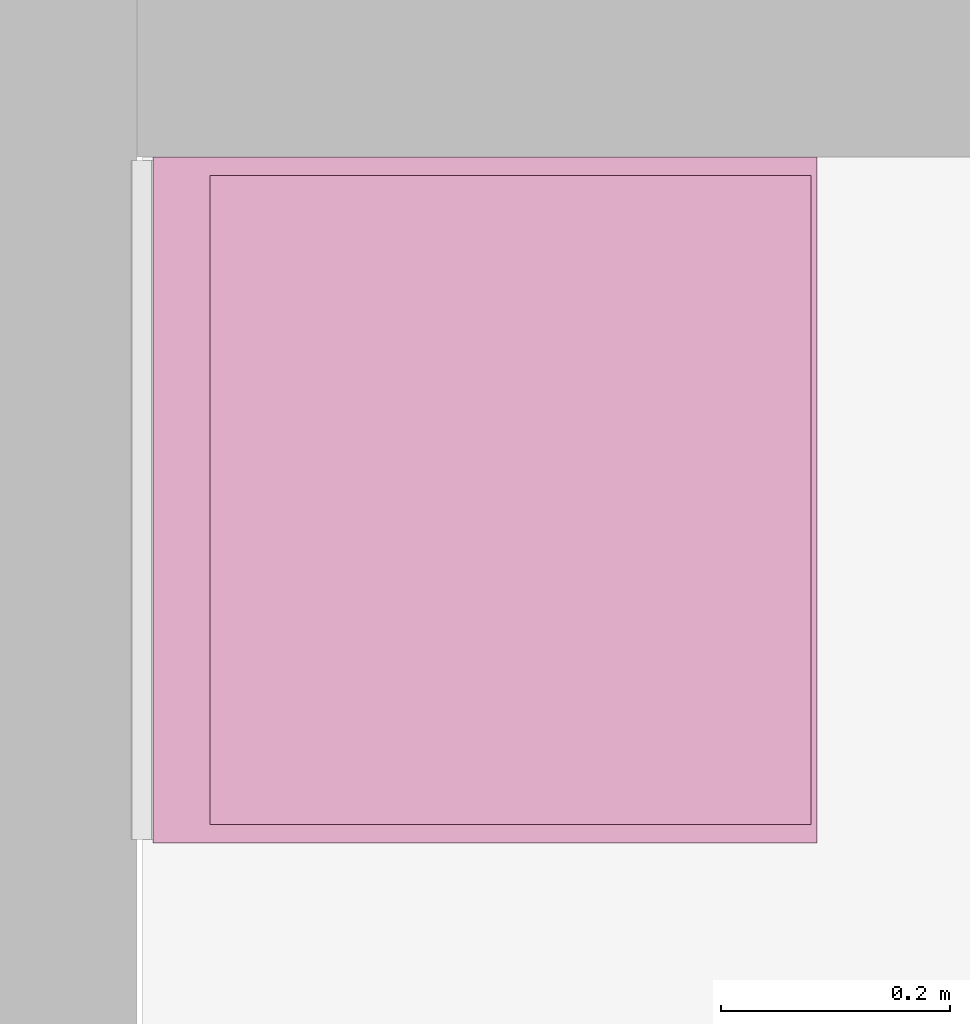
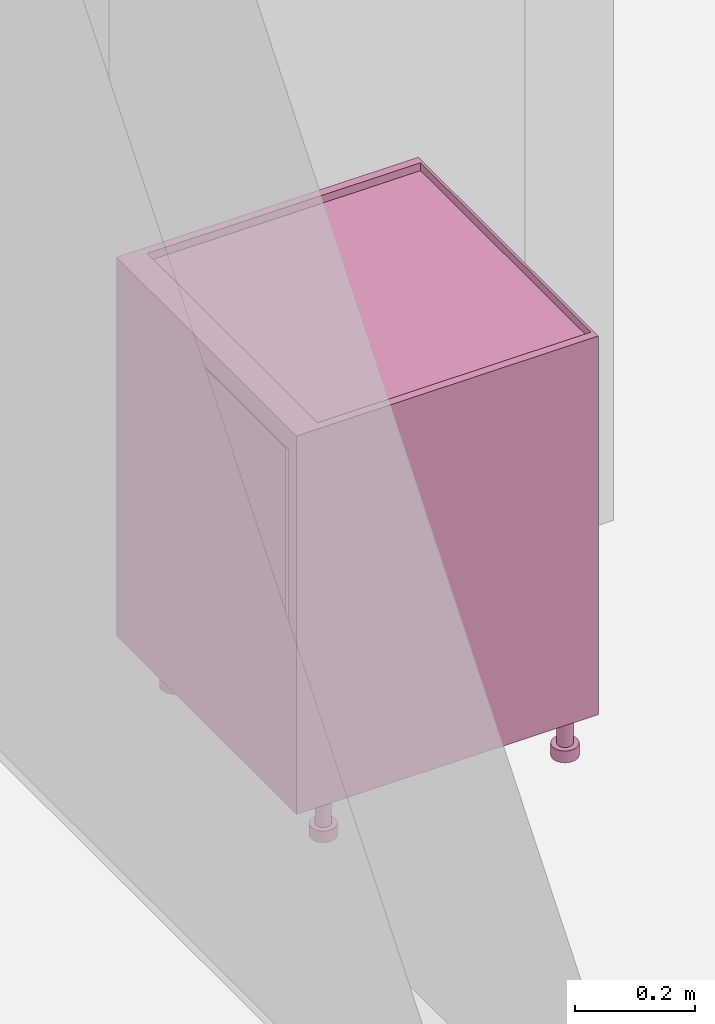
# One storey, part 19 of 42: 1 furnishing.
"""IFC2X3 building model written with IfcOpenShell, lengths in millimetres."""

from ifc_helpers import new_model, entity, si_unit, converted_unit, direction, frame, origin, place, context, subcontext, project, spatial, faceted_brep, source, transform, mapped, material, type_object, type_shapes, element, save


model = new_model("IFC2X3")

# Units and contexts
model_context = context("Model", 3, precision=0.01, world=origin(), true_north=direction((6.123233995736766e-17, 1.0)))
plan_context = context("Plan", 3, precision=0.01, world=origin(), true_north=direction((6.123233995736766e-17, 1.0)))
body_context = subcontext(model_context, "Body", "Model", "MODEL_VIEW")
ifc_project = project(units=[si_unit("LENGTHUNIT", "METRE", prefix="MILLI"), converted_unit("PLANEANGLEUNIT", "DEGREE", entity("IfcPlaneAngleMeasure", 0.017453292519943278), si_unit("PLANEANGLEUNIT", "RADIAN"), dimensions=[0, 0, 0, 0, 0, 0, 0]), si_unit("AREAUNIT", "SQUARE_METRE")], contexts=[model_context, plan_context])

# Site, building, storey
site_placement = place(None, origin())
site = spatial("IfcSite", under=ifc_project, at=site_placement, Name="Default", CompositionType="ELEMENT")
building_placement = place(site_placement, origin())
building = spatial("IfcBuilding", under=site, at=building_placement, CompositionType="ELEMENT")
storey_placement = place(building_placement, frame((0.0, 0.0, 9465.000076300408)))
storey = spatial("IfcBuildingStorey", under=building, at=storey_placement, Name="4K", CompositionType="ELEMENT", Elevation=9465.000076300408)

# Furnishing
ifc_material = material(Name="<Unnamed>")
furniture_type = type_object("IfcFurnitureType", Name="HR_Casework_Kitchen_Generic_Appliance_v1:Fridge", AssemblyPlace="NOTDEFINED", material=ifc_material)
shared_shape = source(origin(), body_context, "Body", "Brep", [
    faceted_brep([(305.7003264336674, -585.7846096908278, -3101.0), (310.6708891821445, -581.9705627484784, -3101.0), (300.70032643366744, -577.1243556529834, -3101.0), (297.32379306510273, -578.5229615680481, -3101.0), (299.91198351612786, -588.1822198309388, -3101.0), (303.59982137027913, -574.8994949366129, -3101.0), (314.4849361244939, -577.0, -3101.0), (305.82468208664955, -572.0, -3101.0), (307.2232880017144, -568.6234666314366, -3101.0), (316.8825462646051, -571.2116570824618, -3101.0), (307.70032643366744, -565.0, -3101.0), (317.7003264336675, -565.0, -3101.0), (307.2232880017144, -561.3765333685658, -3101.0), (316.88254626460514, -558.7883429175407, -3101.0), (305.82468208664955, -558.0, -3101.0), (314.484936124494, -553.0, -3101.0), (303.59982137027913, -555.1005050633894, -3101.0), (310.67088918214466, -548.0294372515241, -3101.0), (300.70032643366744, -552.875644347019, -3101.0), (305.7003264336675, -544.2153903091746, -3101.0), (297.32379306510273, -551.4770384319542, -3101.0), (299.91198351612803, -541.8177801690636, -3101.0), (293.7003264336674, -551.0, -3101.0), (293.70032643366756, -541.0, -3101.0), (290.07685980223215, -551.4770384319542, -3101.0), (287.488669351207, -541.8177801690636, -3101.0), (286.70032643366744, -552.875644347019, -3101.0), (281.7003264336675, -544.2153903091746, -3101.0), (283.80083149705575, -555.1005050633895, -3101.0), (276.7297636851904, -548.029437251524, -3101.0), (281.5759707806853, -558.0, -3101.0), (272.91571674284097, -553.0, -3101.0), (270.51810660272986, -558.7883429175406, -3101.0), (280.1773648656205, -561.3765333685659, -3101.0), (269.7003264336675, -565.0, -3101.0), (279.7003264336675, -565.0, -3101.0), (270.51810660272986, -571.2116570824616, -3101.0), (280.1773648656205, -568.6234666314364, -3101.0), (272.9157167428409, -577.0, -3101.0), (281.57597078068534, -572.0, -3101.0), (276.7297636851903, -581.9705627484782, -3101.0), (283.80083149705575, -574.8994949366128, -3101.0), (281.70032643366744, -585.7846096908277, -3101.0), (286.70032643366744, -577.1243556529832, -3101.0), (287.4886693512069, -588.1822198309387, -3101.0), (290.07685980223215, -578.5229615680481, -3101.0), (293.7003264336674, -589.0, -3101.0), (293.70032643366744, -579.0, -3101.0), (299.91198351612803, -541.8177801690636, -3125.0), (305.7003264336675, -544.2153903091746, -3125.0), (310.67088918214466, -548.0294372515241, -3125.0), (314.484936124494, -553.0, -3125.0), (316.88254626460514, -558.7883429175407, -3125.0), (317.7003264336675, -565.0, -3125.0), (316.8825462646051, -571.2116570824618, -3125.0), (314.4849361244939, -577.0, -3125.0), (310.6708891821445, -581.9705627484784, -3125.0), (305.7003264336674, -585.7846096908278, -3125.0), (299.91198351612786, -588.1822198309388, -3125.0), (293.7003264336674, -589.0, -3125.0), (287.4886693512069, -588.1822198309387, -3125.0), (281.70032643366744, -585.7846096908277, -3125.0), (276.7297636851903, -581.9705627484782, -3125.0), (272.9157167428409, -577.0, -3125.0), (270.51810660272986, -571.2116570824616, -3125.0), (269.7003264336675, -565.0, -3125.0), (270.51810660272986, -558.7883429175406, -3125.0), (272.91571674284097, -553.0, -3125.0), (276.7297636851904, -548.029437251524, -3125.0), (281.7003264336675, -544.2153903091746, -3125.0), (287.488669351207, -541.8177801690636, -3125.0), (293.70032643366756, -541.0, -3125.0), (297.32379306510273, -578.5229615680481, -3025.0), (300.70032643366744, -577.1243556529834, -3025.0), (303.59982137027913, -574.8994949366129, -3025.0), (305.8246820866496, -572.0, -3025.0), (307.2232880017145, -568.6234666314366, -3025.0), (307.70032643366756, -565.0, -3025.0), (307.2232880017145, -561.3765333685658, -3025.0), (305.8246820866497, -558.0, -3025.0), (303.5998213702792, -555.1005050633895, -3025.0), (300.70032643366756, -552.875644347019, -3025.0), (297.32379306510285, -551.4770384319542, -3025.0), (293.70032643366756, -551.0, -3025.0), (290.07685980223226, -551.4770384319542, -3025.0), (286.70032643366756, -552.875644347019, -3025.0), (283.80083149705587, -555.1005050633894, -3025.0), (281.5759707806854, -558.0, -3025.0), (280.1773648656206, -561.3765333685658, -3025.0), (279.70032643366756, -565.0, -3025.0), (280.1773648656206, -568.6234666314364, -3025.0), (281.5759707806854, -572.0, -3025.0), (283.8008314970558, -574.8994949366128, -3025.0), (286.7003264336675, -577.1243556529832, -3025.0), (290.07685980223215, -578.5229615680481, -3025.0), (293.70032643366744, -579.0, -3025.0)], [[[0, 1, 2]], [[0, 2, 3]], [[3, 4, 0]], [[2, 1, 5]], [[6, 5, 1]], [[7, 5, 6]], [[8, 7, 6]], [[8, 6, 9]], [[8, 9, 10]], [[10, 9, 11]], [[12, 10, 11]], [[12, 11, 13]], [[14, 12, 13]], [[14, 13, 15]], [[16, 14, 15]], [[15, 17, 16]], [[17, 18, 16]], [[18, 17, 19]], [[18, 19, 20]], [[21, 20, 19]], [[20, 21, 22]], [[22, 21, 23]], [[23, 24, 22]], [[24, 23, 25]], [[24, 25, 26]], [[27, 26, 25]], [[27, 28, 26]], [[27, 29, 28]], [[30, 28, 29]], [[31, 30, 29]], [[32, 30, 31]], [[33, 30, 32]], [[33, 32, 34]], [[34, 35, 33]], [[36, 35, 34]], [[36, 37, 35]], [[37, 36, 38]], [[39, 37, 38]], [[39, 38, 40]], [[39, 40, 41]], [[40, 42, 41]], [[41, 42, 43]], [[43, 42, 44]], [[44, 45, 43]], [[46, 45, 44]], [[4, 47, 46]], [[45, 46, 47]], [[4, 3, 47]], [[48, 49, 50, 51, 52, 53, 54, 55, 56, 57, 58, 59, 60, 61, 62, 63, 64, 65, 66, 67, 68, 69, 70, 71]], [[64, 36, 34, 65]], [[63, 38, 36, 64]], [[42, 40, 62, 61]], [[63, 62, 40, 38]], [[44, 42, 61, 60]], [[46, 44, 60, 59]], [[58, 4, 46, 59]], [[57, 0, 4, 58]], [[54, 53, 11, 9]], [[1, 0, 57, 56]], [[6, 55, 54, 9]], [[6, 1, 56, 55]], [[52, 13, 11, 53]], [[51, 15, 13, 52]], [[19, 17, 50, 49]], [[51, 50, 17, 15]], [[21, 19, 49, 48]], [[23, 21, 48, 71]], [[27, 69, 68, 29]], [[31, 67, 66, 32]], [[68, 67, 31, 29]], [[32, 66, 65, 34]], [[25, 70, 69, 27]], [[70, 25, 23, 71]], [[72, 73, 74, 75, 76, 77, 78, 79, 80, 81, 82, 83, 84, 85, 86, 87, 88, 89, 90, 91, 92, 93, 94, 95]], [[37, 39, 91, 90]], [[35, 37, 90, 89]], [[43, 45, 94, 93]], [[41, 43, 93, 92]], [[39, 41, 92, 91]], [[47, 95, 94, 45]], [[2, 5, 74, 73]], [[3, 2, 73, 72]], [[8, 10, 77, 76]], [[7, 8, 76, 75]], [[5, 7, 75, 74]], [[3, 72, 95, 47]], [[79, 78, 12, 14]], [[78, 77, 10, 12]], [[80, 16, 18, 81]], [[16, 80, 79, 14]], [[81, 18, 20, 82]], [[22, 83, 82, 20]], [[26, 28, 86, 85]], [[24, 26, 85, 84]], [[33, 35, 89, 88]], [[30, 33, 88, 87]], [[28, 30, 87, 86]], [[24, 84, 83, 22]]]),
    faceted_brep([(-192.29967356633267, -585.7846096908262, -3101.0), (-187.3291108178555, -581.9705627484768, -3101.0), (-197.29967356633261, -577.1243556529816, -3101.0), (-200.67620693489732, -578.5229615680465, -3101.0), (-198.08801648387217, -588.1822198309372, -3101.0), (-194.40017862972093, -574.8994949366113, -3101.0), (-183.51506387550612, -577.0, -3101.0), (-192.17531791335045, -572.0, -3101.0), (-190.77671199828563, -568.6234666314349, -3101.0), (-181.11745373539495, -571.2116570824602, -3101.0), (-190.29967356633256, -565.0, -3101.0), (-180.29967356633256, -565.0, -3101.0), (-190.77671199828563, -561.3765333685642, -3101.0), (-181.11745373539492, -558.788342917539, -3101.0), (-192.17531791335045, -558.0, -3101.0), (-183.515063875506, -553.0, -3101.0), (-194.40017862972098, -555.1005050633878, -3101.0), (-187.3291108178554, -548.0294372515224, -3101.0), (-197.29967356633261, -552.8756443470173, -3101.0), (-192.29967356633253, -544.215390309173, -3101.0), (-200.67620693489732, -551.4770384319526, -3101.0), (-198.08801648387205, -541.8177801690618, -3101.0), (-204.29967356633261, -551.0, -3101.0), (-204.29967356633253, -541.0, -3101.0), (-207.92314019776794, -551.4770384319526, -3101.0), (-210.51133064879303, -541.8177801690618, -3101.0), (-211.29967356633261, -552.8756443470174, -3101.0), (-216.29967356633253, -544.215390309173, -3101.0), (-214.19916850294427, -555.1005050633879, -3101.0), (-221.27023631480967, -548.0294372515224, -3101.0), (-216.42402921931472, -558.0, -3101.0), (-225.08428325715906, -553.0, -3101.0), (-227.48189339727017, -558.788342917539, -3101.0), (-217.8226351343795, -561.3765333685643, -3101.0), (-228.2996735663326, -565.0, -3101.0), (-218.29967356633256, -565.0, -3101.0), (-227.48189339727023, -571.21165708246, -3101.0), (-217.8226351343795, -568.6234666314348, -3101.0), (-225.08428325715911, -577.0, -3101.0), (-216.42402921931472, -572.0, -3101.0), (-221.27023631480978, -581.9705627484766, -3101.0), (-214.19916850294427, -574.8994949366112, -3101.0), (-216.29967356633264, -585.784609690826, -3101.0), (-211.29967356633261, -577.1243556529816, -3101.0), (-210.51133064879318, -588.1822198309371, -3101.0), (-207.9231401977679, -578.5229615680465, -3101.0), (-204.2996735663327, -589.0, -3101.0), (-204.29967356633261, -579.0, -3101.0), (-198.08801648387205, -541.8177801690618, -3125.0), (-192.29967356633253, -544.215390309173, -3125.0), (-187.3291108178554, -548.0294372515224, -3125.0), (-183.515063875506, -553.0, -3125.0), (-181.11745373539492, -558.788342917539, -3125.0), (-180.29967356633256, -565.0, -3125.0), (-181.11745373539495, -571.2116570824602, -3125.0), (-183.51506387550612, -577.0, -3125.0), (-187.3291108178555, -581.9705627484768, -3125.0), (-192.29967356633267, -585.7846096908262, -3125.0), (-198.08801648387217, -588.1822198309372, -3125.0), (-204.2996735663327, -589.0, -3125.0), (-210.51133064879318, -588.1822198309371, -3125.0), (-216.29967356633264, -585.784609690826, -3125.0), (-221.27023631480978, -581.9705627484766, -3125.0), (-225.08428325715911, -577.0, -3125.0), (-227.48189339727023, -571.21165708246, -3125.0), (-228.2996735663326, -565.0, -3125.0), (-227.48189339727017, -558.788342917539, -3125.0), (-225.08428325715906, -553.0, -3125.0), (-221.27023631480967, -548.0294372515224, -3125.0), (-216.29967356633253, -544.215390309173, -3125.0), (-210.51133064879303, -541.8177801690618, -3125.0), (-204.29967356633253, -541.0, -3125.0), (-200.67620693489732, -578.5229615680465, -3025.0), (-197.29967356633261, -577.1243556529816, -3025.0), (-194.40017862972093, -574.8994949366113, -3025.0), (-192.17531791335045, -572.0, -3025.0), (-190.77671199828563, -568.6234666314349, -3025.0), (-190.29967356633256, -565.0, -3025.0), (-190.77671199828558, -561.3765333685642, -3025.0), (-192.1753179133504, -558.0, -3025.0), (-194.40017862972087, -555.1005050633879, -3025.0), (-197.29967356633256, -552.8756443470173, -3025.0), (-200.67620693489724, -551.4770384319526, -3025.0), (-204.29967356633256, -551.0, -3025.0), (-207.92314019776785, -551.4770384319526, -3025.0), (-211.29967356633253, -552.8756443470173, -3025.0), (-214.1991685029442, -555.1005050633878, -3025.0), (-216.4240292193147, -558.0, -3025.0), (-217.8226351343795, -561.3765333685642, -3025.0), (-218.29967356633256, -565.0, -3025.0), (-217.8226351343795, -568.6234666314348, -3025.0), (-216.42402921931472, -572.0, -3025.0), (-214.19916850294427, -574.8994949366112, -3025.0), (-211.2996735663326, -577.1243556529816, -3025.0), (-207.9231401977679, -578.5229615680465, -3025.0), (-204.29967356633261, -579.0, -3025.0)], [[[0, 1, 2]], [[0, 2, 3]], [[3, 4, 0]], [[2, 1, 5]], [[6, 5, 1]], [[7, 5, 6]], [[8, 7, 6]], [[8, 6, 9]], [[8, 9, 10]], [[10, 9, 11]], [[12, 10, 11]], [[12, 11, 13]], [[14, 12, 13]], [[14, 13, 15]], [[16, 14, 15]], [[15, 17, 16]], [[17, 18, 16]], [[18, 17, 19]], [[18, 19, 20]], [[21, 20, 19]], [[20, 21, 22]], [[22, 21, 23]], [[23, 24, 22]], [[24, 23, 25]], [[24, 25, 26]], [[27, 26, 25]], [[27, 28, 26]], [[27, 29, 28]], [[30, 28, 29]], [[31, 30, 29]], [[32, 30, 31]], [[33, 30, 32]], [[33, 32, 34]], [[34, 35, 33]], [[36, 35, 34]], [[36, 37, 35]], [[37, 36, 38]], [[39, 37, 38]], [[39, 38, 40]], [[39, 40, 41]], [[40, 42, 41]], [[41, 42, 43]], [[43, 42, 44]], [[44, 45, 43]], [[46, 45, 44]], [[4, 47, 46]], [[45, 46, 47]], [[4, 3, 47]], [[48, 49, 50, 51, 52, 53, 54, 55, 56, 57, 58, 59, 60, 61, 62, 63, 64, 65, 66, 67, 68, 69, 70, 71]], [[64, 36, 34, 65]], [[63, 38, 36, 64]], [[42, 40, 62, 61]], [[63, 62, 40, 38]], [[44, 42, 61, 60]], [[46, 44, 60, 59]], [[58, 4, 46, 59]], [[57, 0, 4, 58]], [[54, 53, 11, 9]], [[1, 0, 57, 56]], [[6, 55, 54, 9]], [[6, 1, 56, 55]], [[52, 13, 11, 53]], [[51, 15, 13, 52]], [[19, 17, 50, 49]], [[51, 50, 17, 15]], [[21, 19, 49, 48]], [[23, 21, 48, 71]], [[27, 69, 68, 29]], [[31, 67, 66, 32]], [[68, 67, 31, 29]], [[32, 66, 65, 34]], [[25, 70, 69, 27]], [[70, 25, 23, 71]], [[72, 73, 74, 75, 76, 77, 78, 79, 80, 81, 82, 83, 84, 85, 86, 87, 88, 89, 90, 91, 92, 93, 94, 95]], [[37, 39, 91, 90]], [[35, 37, 90, 89]], [[43, 45, 94, 93]], [[41, 43, 93, 92]], [[39, 41, 92, 91]], [[47, 95, 94, 45]], [[2, 5, 74, 73]], [[3, 2, 73, 72]], [[8, 10, 77, 76]], [[7, 8, 76, 75]], [[5, 7, 75, 74]], [[3, 72, 95, 47]], [[79, 78, 12, 14]], [[78, 77, 10, 12]], [[80, 16, 18, 81]], [[16, 80, 79, 14]], [[81, 18, 20, 82]], [[22, 83, 82, 20]], [[26, 28, 86, 85]], [[24, 26, 85, 84]], [[33, 35, 89, 88]], [[30, 33, 88, 87]], [[28, 30, 87, 86]], [[24, 84, 83, 22]]]),
    faceted_brep([(305.70032643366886, -120.78460969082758, -3101.0), (310.670889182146, -116.97056274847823, -3101.0), (300.7003264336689, -112.12435565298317, -3101.0), (297.3237930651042, -113.52296156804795, -3101.0), (299.91198351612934, -123.18221983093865, -3101.0), (303.5998213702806, -109.8994949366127, -3101.0), (314.48493612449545, -112.0, -3101.0), (305.824682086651, -107.0, -3101.0), (307.2232880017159, -103.62346663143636, -3101.0), (316.88254626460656, -106.21165708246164, -3101.0), (307.700326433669, -100.0, -3101.0), (317.700326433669, -100.0, -3101.0), (307.2232880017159, -96.3765333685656, -3101.0), (316.8825462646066, -93.78834291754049, -3101.0), (305.824682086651, -93.0, -3101.0), (314.4849361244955, -88.0, -3101.0), (303.5998213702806, -90.10050506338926, -3101.0), (310.67088918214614, -83.02943725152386, -3101.0), (300.7003264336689, -87.8756443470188, -3101.0), (305.700326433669, -79.21539030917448, -3101.0), (297.3237930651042, -86.477038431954, -3101.0), (299.9119835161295, -76.81778016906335, -3101.0), (293.70032643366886, -86.0, -3101.0), (293.70032643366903, -76.0, -3101.0), (290.0768598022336, -86.47703843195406, -3101.0), (287.4886693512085, -76.81778016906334, -3101.0), (286.7003264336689, -87.87564434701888, -3101.0), (281.700326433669, -79.21539030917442, -3101.0), (283.8008314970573, -90.10050506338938, -3101.0), (276.72976368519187, -83.0294372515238, -3101.0), (281.5759707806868, -93.0, -3101.0), (272.91571674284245, -88.0, -3101.0), (270.51810660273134, -93.78834291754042, -3101.0), (280.177364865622, -96.37653336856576, -3101.0), (269.700326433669, -100.0, -3101.0), (279.700326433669, -100.0, -3101.0), (270.51810660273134, -106.2116570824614, -3101.0), (280.177364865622, -103.62346663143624, -3101.0), (272.9157167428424, -112.0, -3101.0), (281.5759707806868, -107.0, -3101.0), (276.72976368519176, -116.97056274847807, -3101.0), (283.8008314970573, -109.89949493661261, -3101.0), (281.7003264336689, -120.78460969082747, -3101.0), (286.7003264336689, -112.1243556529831, -3101.0), (287.4886693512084, -123.1822198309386, -3101.0), (290.0768598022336, -113.52296156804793, -3101.0), (293.70032643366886, -124.0, -3101.0), (293.7003264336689, -114.0, -3101.0), (299.9119835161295, -76.81778016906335, -3125.0), (305.700326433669, -79.21539030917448, -3125.0), (310.67088918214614, -83.02943725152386, -3125.0), (314.4849361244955, -88.0, -3125.0), (316.8825462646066, -93.78834291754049, -3125.0), (317.700326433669, -100.0, -3125.0), (316.88254626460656, -106.21165708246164, -3125.0), (314.48493612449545, -112.0, -3125.0), (310.670889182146, -116.97056274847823, -3125.0), (305.70032643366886, -120.78460969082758, -3125.0), (299.91198351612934, -123.18221983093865, -3125.0), (293.70032643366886, -124.0, -3125.0), (287.4886693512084, -123.1822198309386, -3125.0), (281.7003264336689, -120.78460969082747, -3125.0), (276.72976368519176, -116.97056274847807, -3125.0), (272.9157167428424, -112.0, -3125.0), (270.51810660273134, -106.2116570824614, -3125.0), (269.700326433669, -100.0, -3125.0), (270.51810660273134, -93.78834291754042, -3125.0), (272.91571674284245, -88.0, -3125.0), (276.72976368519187, -83.0294372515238, -3125.0), (281.700326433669, -79.21539030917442, -3125.0), (287.4886693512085, -76.81778016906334, -3125.0), (293.70032643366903, -76.0, -3125.0), (297.32379306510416, -113.52296156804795, -3025.0), (300.70032643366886, -112.12435565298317, -3025.0), (303.59982137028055, -109.8994949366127, -3025.0), (305.824682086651, -107.0, -3025.0), (307.22328800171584, -103.62346663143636, -3025.0), (307.700326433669, -100.0, -3025.0), (307.2232880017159, -96.3765333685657, -3025.0), (305.82468208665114, -93.0, -3025.0), (303.5998213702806, -90.10050506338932, -3025.0), (300.700326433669, -87.87564434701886, -3025.0), (297.32379306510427, -86.47703843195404, -3025.0), (293.700326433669, -86.0, -3025.0), (290.0768598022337, -86.47703843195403, -3025.0), (286.700326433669, -87.87564434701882, -3025.0), (283.8008314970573, -90.1005050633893, -3025.0), (281.5759707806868, -93.0, -3025.0), (280.177364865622, -96.37653336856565, -3025.0), (279.700326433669, -100.0, -3025.0), (280.177364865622, -103.62346663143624, -3025.0), (281.5759707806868, -107.0, -3025.0), (283.80083149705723, -109.89949493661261, -3025.0), (286.7003264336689, -112.1243556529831, -3025.0), (290.07685980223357, -113.52296156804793, -3025.0), (293.70032643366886, -114.0, -3025.0)], [[[0, 1, 2]], [[0, 2, 3]], [[3, 4, 0]], [[2, 1, 5]], [[6, 5, 1]], [[7, 5, 6]], [[8, 7, 6]], [[8, 6, 9]], [[8, 9, 10]], [[10, 9, 11]], [[12, 10, 11]], [[12, 11, 13]], [[14, 12, 13]], [[14, 13, 15]], [[16, 14, 15]], [[15, 17, 16]], [[17, 18, 16]], [[18, 17, 19]], [[18, 19, 20]], [[21, 20, 19]], [[20, 21, 22]], [[22, 21, 23]], [[23, 24, 22]], [[24, 23, 25]], [[24, 25, 26]], [[27, 26, 25]], [[27, 28, 26]], [[27, 29, 28]], [[30, 28, 29]], [[31, 30, 29]], [[32, 30, 31]], [[33, 30, 32]], [[33, 32, 34]], [[34, 35, 33]], [[36, 35, 34]], [[36, 37, 35]], [[37, 36, 38]], [[39, 37, 38]], [[39, 38, 40]], [[39, 40, 41]], [[40, 42, 41]], [[41, 42, 43]], [[43, 42, 44]], [[44, 45, 43]], [[46, 45, 44]], [[4, 47, 46]], [[45, 46, 47]], [[4, 3, 47]], [[48, 49, 50, 51, 52, 53, 54, 55, 56, 57, 58, 59, 60, 61, 62, 63, 64, 65, 66, 67, 68, 69, 70, 71]], [[64, 36, 34, 65]], [[63, 38, 36, 64]], [[42, 40, 62, 61]], [[63, 62, 40, 38]], [[44, 42, 61, 60]], [[46, 44, 60, 59]], [[58, 4, 46, 59]], [[57, 0, 4, 58]], [[54, 53, 11, 9]], [[1, 0, 57, 56]], [[6, 55, 54, 9]], [[6, 1, 56, 55]], [[52, 13, 11, 53]], [[51, 15, 13, 52]], [[19, 17, 50, 49]], [[51, 50, 17, 15]], [[21, 19, 49, 48]], [[23, 21, 48, 71]], [[27, 69, 68, 29]], [[31, 67, 66, 32]], [[68, 67, 31, 29]], [[32, 66, 65, 34]], [[25, 70, 69, 27]], [[70, 25, 23, 71]], [[72, 73, 74, 75, 76, 77, 78, 79, 80, 81, 82, 83, 84, 85, 86, 87, 88, 89, 90, 91, 92, 93, 94, 95]], [[37, 39, 91, 90]], [[35, 37, 90, 89]], [[43, 45, 94, 93]], [[41, 43, 93, 92]], [[39, 41, 92, 91]], [[47, 95, 94, 45]], [[2, 5, 74, 73]], [[3, 2, 73, 72]], [[8, 10, 77, 76]], [[7, 8, 76, 75]], [[5, 7, 75, 74]], [[3, 72, 95, 47]], [[79, 78, 12, 14]], [[78, 77, 10, 12]], [[80, 16, 18, 81]], [[16, 80, 79, 14]], [[81, 18, 20, 82]], [[22, 83, 82, 20]], [[26, 28, 86, 85]], [[24, 26, 85, 84]], [[33, 35, 89, 88]], [[30, 33, 88, 87]], [[28, 30, 87, 86]], [[24, 84, 83, 22]]]),
    faceted_brep([(-192.299673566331, -120.78460969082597, -3101.0), (-187.3291108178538, -116.97056274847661, -3101.0), (-197.29967356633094, -112.12435565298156, -3101.0), (-200.67620693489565, -113.52296156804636, -3101.0), (-198.0880164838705, -123.18221983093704, -3101.0), (-194.40017862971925, -109.89949493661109, -3101.0), (-183.5150638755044, -112.0, -3101.0), (-192.17531791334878, -107.0, -3101.0), (-190.77671199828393, -103.62346663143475, -3101.0), (-181.11745373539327, -106.21165708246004, -3101.0), (-190.29967356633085, -100.0, -3101.0), (-180.29967356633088, -100.0, -3101.0), (-190.77671199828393, -96.376533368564, -3101.0), (-181.11745373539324, -93.78834291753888, -3101.0), (-192.17531791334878, -93.0, -3101.0), (-183.51506387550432, -88.0, -3101.0), (-194.40017862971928, -90.10050506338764, -3101.0), (-187.32911081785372, -83.02943725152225, -3101.0), (-197.29967356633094, -87.8756443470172, -3101.0), (-192.29967356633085, -79.21539030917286, -3101.0), (-200.67620693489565, -86.4770384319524, -3101.0), (-198.08801648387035, -76.81778016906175, -3101.0), (-204.29967356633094, -86.0, -3101.0), (-204.29967356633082, -76.0, -3101.0), (-207.92314019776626, -86.47703843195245, -3101.0), (-210.51133064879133, -76.81778016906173, -3101.0), (-211.29967356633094, -87.87564434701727, -3101.0), (-216.29967356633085, -79.21539030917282, -3101.0), (-214.19916850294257, -90.10050506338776, -3101.0), (-221.270236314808, -83.0294372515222, -3101.0), (-216.424029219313, -93.0, -3101.0), (-225.08428325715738, -88.0, -3101.0), (-227.4818933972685, -93.78834291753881, -3101.0), (-217.82263513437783, -96.37653336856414, -3101.0), (-228.29967356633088, -100.0, -3101.0), (-218.29967356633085, -100.0, -3101.0), (-227.48189339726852, -106.2116570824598, -3101.0), (-217.82263513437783, -103.62346663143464, -3101.0), (-225.08428325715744, -112.0, -3101.0), (-216.424029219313, -107.0, -3101.0), (-221.27023631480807, -116.97056274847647, -3101.0), (-214.19916850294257, -109.899494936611, -3101.0), (-216.29967356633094, -120.78460969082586, -3101.0), (-211.29967356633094, -112.12435565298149, -3101.0), (-210.51133064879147, -123.18221983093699, -3101.0), (-207.9231401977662, -113.52296156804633, -3101.0), (-204.299673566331, -124.0, -3101.0), (-204.29967356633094, -114.0, -3101.0), (-198.08801648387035, -76.81778016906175, -3125.0), (-192.29967356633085, -79.21539030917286, -3125.0), (-187.32911081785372, -83.02943725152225, -3125.0), (-183.51506387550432, -88.0, -3125.0), (-181.11745373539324, -93.78834291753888, -3125.0), (-180.29967356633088, -100.0, -3125.0), (-181.11745373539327, -106.21165708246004, -3125.0), (-183.5150638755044, -112.0, -3125.0), (-187.3291108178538, -116.97056274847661, -3125.0), (-192.299673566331, -120.78460969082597, -3125.0), (-198.0880164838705, -123.18221983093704, -3125.0), (-204.299673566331, -124.0, -3125.0), (-210.51133064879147, -123.18221983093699, -3125.0), (-216.29967356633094, -120.78460969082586, -3125.0), (-221.27023631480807, -116.97056274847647, -3125.0), (-225.08428325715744, -112.0, -3125.0), (-227.48189339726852, -106.2116570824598, -3125.0), (-228.29967356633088, -100.0, -3125.0), (-227.4818933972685, -93.78834291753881, -3125.0), (-225.08428325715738, -88.0, -3125.0), (-221.270236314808, -83.0294372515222, -3125.0), (-216.29967356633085, -79.21539030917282, -3125.0), (-210.51133064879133, -76.81778016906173, -3125.0), (-204.29967356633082, -76.0, -3125.0), (-200.67620693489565, -113.52296156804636, -3025.0), (-197.29967356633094, -112.12435565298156, -3025.0), (-194.40017862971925, -109.89949493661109, -3025.0), (-192.17531791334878, -107.0, -3025.0), (-190.77671199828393, -103.62346663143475, -3025.0), (-190.29967356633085, -100.0, -3025.0), (-190.7767119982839, -96.3765333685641, -3025.0), (-192.1753179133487, -93.0, -3025.0), (-194.4001786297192, -90.10050506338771, -3025.0), (-197.29967356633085, -87.87564434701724, -3025.0), (-200.67620693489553, -86.47703843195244, -3025.0), (-204.29967356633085, -86.0, -3025.0), (-207.92314019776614, -86.47703843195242, -3025.0), (-211.29967356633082, -87.87564434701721, -3025.0), (-214.1991685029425, -90.10050506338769, -3025.0), (-216.42402921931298, -93.0, -3025.0), (-217.82263513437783, -96.37653336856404, -3025.0), (-218.29967356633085, -100.0, -3025.0), (-217.82263513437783, -103.62346663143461, -3025.0), (-216.424029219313, -107.0, -3025.0), (-214.19916850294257, -109.899494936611, -3025.0), (-211.29967356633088, -112.12435565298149, -3025.0), (-207.9231401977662, -113.52296156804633, -3025.0), (-204.29967356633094, -114.0, -3025.0)], [[[0, 1, 2]], [[0, 2, 3]], [[3, 4, 0]], [[2, 1, 5]], [[6, 5, 1]], [[7, 5, 6]], [[8, 7, 6]], [[8, 6, 9]], [[8, 9, 10]], [[10, 9, 11]], [[12, 10, 11]], [[12, 11, 13]], [[14, 12, 13]], [[14, 13, 15]], [[16, 14, 15]], [[15, 17, 16]], [[17, 18, 16]], [[18, 17, 19]], [[18, 19, 20]], [[21, 20, 19]], [[20, 21, 22]], [[22, 21, 23]], [[23, 24, 22]], [[24, 23, 25]], [[24, 25, 26]], [[27, 26, 25]], [[27, 28, 26]], [[27, 29, 28]], [[30, 28, 29]], [[31, 30, 29]], [[32, 30, 31]], [[33, 30, 32]], [[33, 32, 34]], [[34, 35, 33]], [[36, 35, 34]], [[36, 37, 35]], [[37, 36, 38]], [[39, 37, 38]], [[39, 38, 40]], [[39, 40, 41]], [[40, 42, 41]], [[41, 42, 43]], [[43, 42, 44]], [[44, 45, 43]], [[46, 45, 44]], [[4, 47, 46]], [[45, 46, 47]], [[4, 3, 47]], [[48, 49, 50, 51, 52, 53, 54, 55, 56, 57, 58, 59, 60, 61, 62, 63, 64, 65, 66, 67, 68, 69, 70, 71]], [[64, 36, 34, 65]], [[63, 38, 36, 64]], [[42, 40, 62, 61]], [[63, 62, 40, 38]], [[44, 42, 61, 60]], [[46, 44, 60, 59]], [[58, 4, 46, 59]], [[57, 0, 4, 58]], [[54, 53, 11, 9]], [[1, 0, 57, 56]], [[6, 55, 54, 9]], [[6, 1, 56, 55]], [[52, 13, 11, 53]], [[51, 15, 13, 52]], [[19, 17, 50, 49]], [[51, 50, 17, 15]], [[21, 19, 49, 48]], [[23, 21, 48, 71]], [[27, 69, 68, 29]], [[31, 67, 66, 32]], [[68, 67, 31, 29]], [[32, 66, 65, 34]], [[25, 70, 69, 27]], [[70, 25, 23, 71]], [[72, 73, 74, 75, 76, 77, 78, 79, 80, 81, 82, 83, 84, 85, 86, 87, 88, 89, 90, 91, 92, 93, 94, 95]], [[37, 39, 91, 90]], [[35, 37, 90, 89]], [[43, 45, 94, 93]], [[41, 43, 93, 92]], [[39, 41, 92, 91]], [[47, 95, 94, 45]], [[2, 5, 74, 73]], [[3, 2, 73, 72]], [[8, 10, 77, 76]], [[7, 8, 76, 75]], [[5, 7, 75, 74]], [[3, 72, 95, 47]], [[79, 78, 12, 14]], [[78, 77, 10, 12]], [[80, 16, 18, 81]], [[16, 80, 79, 14]], [[81, 18, 20, 82]], [[22, 83, 82, 20]], [[26, 28, 86, 85]], [[24, 26, 85, 84]], [[33, 35, 89, 88]], [[30, 33, 88, 87]], [[28, 30, 87, 86]], [[24, 84, 83, 22]]]),
    faceted_brep([(328.70032643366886, -19.0, -3009.0), (-239.2996735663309, -19.0, -3009.0), (-239.29967356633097, -595.0, -3009.0), (328.70032643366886, -595.0, -3009.0), (328.70032643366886, -19.0, -3025.0), (328.70032643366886, -595.0, -3025.0), (-239.29967356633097, -595.0, -3025.0), (-239.29967356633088, -19.0, -3025.0)], [[[0, 1, 2, 3]], [[4, 5, 6, 7]], [[1, 0, 4, 7]], [[2, 1, 7, 6]], [[3, 2, 6, 5]], [[0, 3, 5, 4]]]),
    faceted_brep([(-255.29967356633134, -19.0, -2255.0), (-255.2996735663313, -600.0, -2255.0), (344.7003264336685, -600.0, -2255.0), (344.7003264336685, -19.0, -2255.0), (328.70032643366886, -19.0, -2255.0), (328.70032643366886, -595.0, -2255.0), (-239.2996735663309, -595.0, -2255.0), (-239.2996735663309, -19.0, -2255.0), (-255.29967356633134, -19.0, -3025.0), (-239.2996735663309, -19.0, -3025.0), (-239.29967356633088, -595.0, -3025.0), (328.70032643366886, -595.0, -3025.0), (328.70032643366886, -19.0, -3025.0), (344.7003264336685, -19.0, -3025.0), (344.7003264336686, -600.0, -3025.0), (-255.2996735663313, -600.0, -3025.0)], [[[0, 1, 2, 3, 4, 5, 6, 7]], [[8, 9, 10, 11, 12, 13, 14, 15]], [[1, 0, 8, 15]], [[0, 7, 9, 8]], [[7, 6, 10, 9]], [[5, 4, 12, 11]], [[4, 3, 13, 12]], [[3, 2, 14, 13]], [[2, 1, 15, 14]], [[6, 5, 11, 10]]]),
    faceted_brep([(328.70032643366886, -69.0, -2255.0), (328.70032643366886, -19.0, -2255.0), (-239.29967356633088, -19.0, -2255.0), (-239.29967356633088, -69.0, -2255.0), (328.70032643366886, -69.0, -2271.0), (-239.29967356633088, -69.0, -2271.0), (-239.29967356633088, -19.0, -2271.0), (328.70032643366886, -19.0, -2271.0)], [[[0, 1, 2, 3]], [[4, 5, 6, 7]], [[0, 3, 5, 4]], [[3, 2, 6, 5]], [[2, 1, 7, 6]], [[1, 0, 4, 7]]]),
    faceted_brep([(328.7003264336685, -19.0, -2271.0), (-239.29967356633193, -19.0, -2271.0), (-239.2996735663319, -595.0, -2271.0), (328.7003264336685, -595.0, -2271.0), (328.7003264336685, -19.0, -3009.0), (328.7003264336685, -595.0, -3009.0), (-239.2996735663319, -595.0, -3009.0), (-239.2996735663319, -19.0, -3009.0)], [[[0, 1, 2, 3]], [[4, 5, 6, 7]], [[1, 0, 4, 7]], [[2, 1, 7, 6]], [[3, 2, 6, 5]], [[0, 3, 5, 4]]]),
])
type_shapes(furniture_type, [shared_shape])
furnishing_placement = place(storey_placement, frame((5294.99719708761, 3895.2996735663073, 3125.0), z_axis=(0.0, 0.0, 1.0), x_axis=(0.0, 1.0, 0.0)))
element("IfcFurnishingElement", 1, at=furnishing_placement, inside=storey, type_object=furniture_type, material=ifc_material, Name="HR_Casework_Kitchen_Generic_Appliance_v1:Fridge", ObjectType="HR_Casework_Kitchen_Generic_Appliance_v1:Fridge", context=body_context, shape_type="MappedRepresentation", body=[
    mapped(shared_shape, transform((0.0, 0.0, 0.0), scale=1.0)),
])

save(model, "model.ifc")
